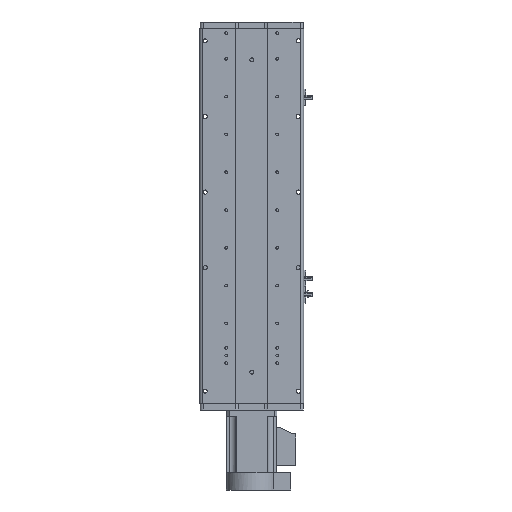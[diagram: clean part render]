
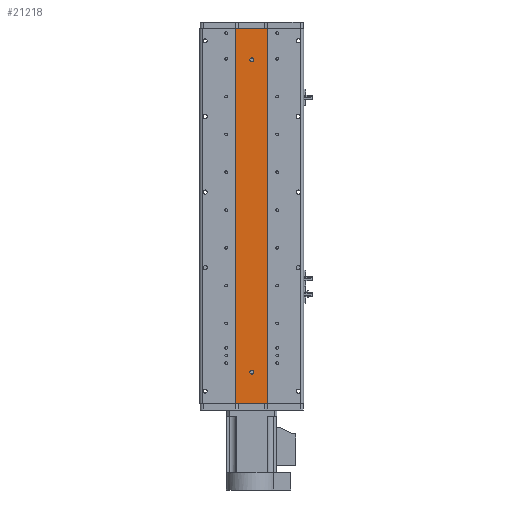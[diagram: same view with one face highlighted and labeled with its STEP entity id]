
A CAD part, front view. The second image highlights one B-rep face of the part: STEP entity #21218.
In plain terms, the highlighted planar face has unit normal (0, -1, 0).
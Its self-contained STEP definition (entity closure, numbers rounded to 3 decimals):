
#551 = EDGE_CURVE ( 'NONE', #26352, #10171, #21104, .T. ) ;
#663 = CARTESIAN_POINT ( 'NONE',  ( 25., 1., 298. ) ) ;
#778 = EDGE_CURVE ( 'NONE', #26352, #34743, #2929, .T. ) ;
#896 = DIRECTION ( 'NONE',  ( 0., 0., -1. ) ) ;
#2178 = DIRECTION ( 'NONE',  ( 0., 0., -1. ) ) ;
#2587 = DIRECTION ( 'NONE',  ( 1., 0., 0. ) ) ;
#2929 = LINE ( 'NONE', #33623, #24613 ) ;
#4632 = EDGE_LOOP ( 'NONE', ( #23219, #30711 ) ) ;
#5129 = EDGE_LOOP ( 'NONE', ( #10346, #7689, #10317, #20500 ) ) ;
#5213 = VERTEX_POINT ( 'NONE', #32684 ) ;
#5237 = CIRCLE ( 'NONE', #6689, 3. ) ;
#5374 = CARTESIAN_POINT ( 'NONE',  ( 0., 1., 248. ) ) ;
#5913 = CARTESIAN_POINT ( 'NONE',  ( 25., 1., 298. ) ) ;
#6689 = AXIS2_PLACEMENT_3D ( 'NONE', #34787, #17808, #896 ) ;
#7689 = ORIENTED_EDGE ( 'NONE', *, *, #25403, .F. ) ;
#7700 = VECTOR ( 'NONE', #10466, 1000. ) ;
#8229 = DIRECTION ( 'NONE',  ( 0., 0., -1. ) ) ;
#8432 = EDGE_CURVE ( 'NONE', #5213, #11141, #12475, .T. ) ;
#9304 = CARTESIAN_POINT ( 'NONE',  ( 0., 1., -248. ) ) ;
#10171 = VERTEX_POINT ( 'NONE', #16033 ) ;
#10317 = ORIENTED_EDGE ( 'NONE', *, *, #778, .F. ) ;
#10346 = ORIENTED_EDGE ( 'NONE', *, *, #34977, .T. ) ;
#10466 = DIRECTION ( 'NONE',  ( 1., 0., 0. ) ) ;
#11141 = VERTEX_POINT ( 'NONE', #27947 ) ;
#11479 = FACE_BOUND ( 'NONE', #4632, .T. ) ;
#12114 = DIRECTION ( 'NONE',  ( 0., 0., -1. ) ) ;
#12362 = FACE_OUTER_BOUND ( 'NONE', #5129, .T. ) ;
#12475 = CIRCLE ( 'NONE', #28096, 3. ) ;
#13560 = VECTOR ( 'NONE', #29400, 1000. ) ;
#14700 = DIRECTION ( 'NONE',  ( 0., 1., 0. ) ) ;
#14987 = EDGE_LOOP ( 'NONE', ( #29255, #25477 ) ) ;
#15431 = AXIS2_PLACEMENT_3D ( 'NONE', #25950, #14700, #34515 ) ;
#15497 = AXIS2_PLACEMENT_3D ( 'NONE', #5374, #25128, #8229 ) ;
#16033 = CARTESIAN_POINT ( 'NONE',  ( -25., 1., -298. ) ) ;
#17292 = AXIS2_PLACEMENT_3D ( 'NONE', #9304, #29027, #12114 ) ;
#17808 = DIRECTION ( 'NONE',  ( 0., -1., 0. ) ) ;
#18583 = CIRCLE ( 'NONE', #15497, 3. ) ;
#18993 = FACE_BOUND ( 'NONE', #14987, .T. ) ;
#19082 = DIRECTION ( 'NONE',  ( 0., -1., 0. ) ) ;
#19635 = VERTEX_POINT ( 'NONE', #26326 ) ;
#20354 = VERTEX_POINT ( 'NONE', #30724 ) ;
#20500 = ORIENTED_EDGE ( 'NONE', *, *, #551, .T. ) ;
#20909 = CARTESIAN_POINT ( 'NONE',  ( -25., 1., 298. ) ) ;
#21032 = VECTOR ( 'NONE', #23145, 1000. ) ;
#21104 = LINE ( 'NONE', #20909, #13560 ) ;
#21218 = ADVANCED_FACE ( 'NONE', ( #11479, #18993, #12362 ), #22998, .F. ) ;
#21244 = EDGE_CURVE ( 'NONE', #29996, #20354, #25623, .T. ) ;
#22796 = EDGE_CURVE ( 'NONE', #11141, #5213, #18583, .T. ) ;
#22998 = PLANE ( 'NONE',  #15431 ) ;
#23145 = DIRECTION ( 'NONE',  ( 0., 0., -1. ) ) ;
#23219 = ORIENTED_EDGE ( 'NONE', *, *, #22796, .F. ) ;
#23575 = LINE ( 'NONE', #30187, #7700 ) ;
#24613 = VECTOR ( 'NONE', #2587, 1000. ) ;
#25128 = DIRECTION ( 'NONE',  ( 0., -1., 0. ) ) ;
#25176 = CARTESIAN_POINT ( 'NONE',  ( -25., 1., 298. ) ) ;
#25403 = EDGE_CURVE ( 'NONE', #34743, #19635, #27641, .T. ) ;
#25477 = ORIENTED_EDGE ( 'NONE', *, *, #21244, .F. ) ;
#25623 = CIRCLE ( 'NONE', #17292, 3. ) ;
#25950 = CARTESIAN_POINT ( 'NONE',  ( 25., 1., 298. ) ) ;
#26326 = CARTESIAN_POINT ( 'NONE',  ( 25., 1., -298. ) ) ;
#26352 = VERTEX_POINT ( 'NONE', #25176 ) ;
#27641 = LINE ( 'NONE', #663, #21032 ) ;
#27947 = CARTESIAN_POINT ( 'NONE',  ( 0., 1., 245. ) ) ;
#28096 = AXIS2_PLACEMENT_3D ( 'NONE', #36076, #19082, #2178 ) ;
#29027 = DIRECTION ( 'NONE',  ( 0., -1., 0. ) ) ;
#29255 = ORIENTED_EDGE ( 'NONE', *, *, #31072, .F. ) ;
#29400 = DIRECTION ( 'NONE',  ( 0., 0., -1. ) ) ;
#29996 = VERTEX_POINT ( 'NONE', #32366 ) ;
#30187 = CARTESIAN_POINT ( 'NONE',  ( 25., 1., -298. ) ) ;
#30711 = ORIENTED_EDGE ( 'NONE', *, *, #8432, .F. ) ;
#30724 = CARTESIAN_POINT ( 'NONE',  ( 0., 1., -251. ) ) ;
#31072 = EDGE_CURVE ( 'NONE', #20354, #29996, #5237, .T. ) ;
#32366 = CARTESIAN_POINT ( 'NONE',  ( 0., 1., -245. ) ) ;
#32684 = CARTESIAN_POINT ( 'NONE',  ( 0., 1., 251. ) ) ;
#33623 = CARTESIAN_POINT ( 'NONE',  ( 25., 1., 298. ) ) ;
#34515 = DIRECTION ( 'NONE',  ( 0., 0., 1. ) ) ;
#34743 = VERTEX_POINT ( 'NONE', #5913 ) ;
#34787 = CARTESIAN_POINT ( 'NONE',  ( 0., 1., -248. ) ) ;
#34977 = EDGE_CURVE ( 'NONE', #10171, #19635, #23575, .T. ) ;
#36076 = CARTESIAN_POINT ( 'NONE',  ( 0., 1., 248. ) ) ;
